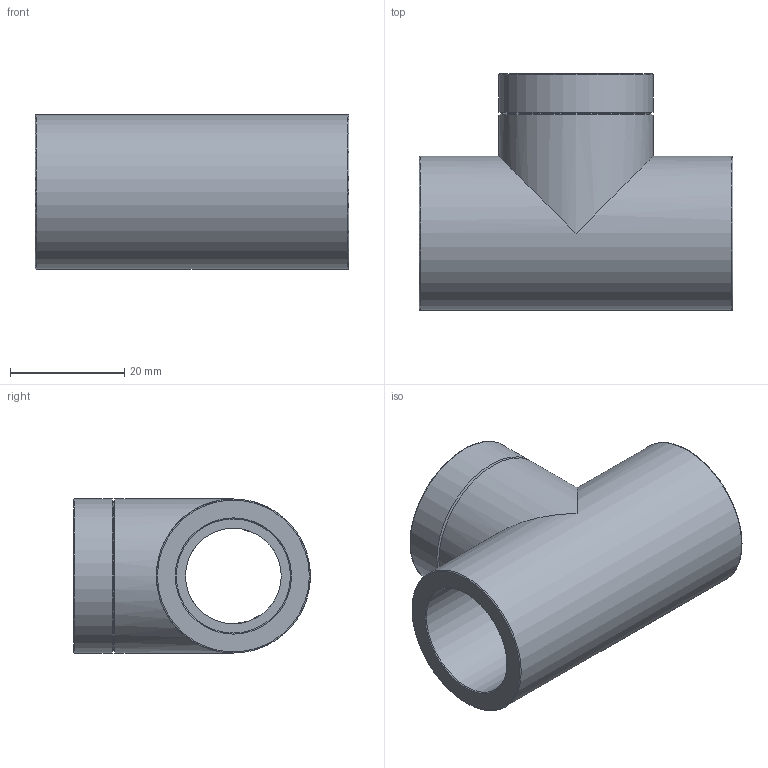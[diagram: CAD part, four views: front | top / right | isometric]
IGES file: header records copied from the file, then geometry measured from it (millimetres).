
Global section: file name: 050402020005.ipt; native system: Autodesk Inventor 2015; preprocessor: unknown; author: KIM; date: 20171207.165844; units: millimetre
Bounding box: 55 x 41.5 x 27 mm (x, y, z)
Volume: 20323.6 mm3; surface area: 10892.1 mm2
Topology: 1 solids, 1 shells, 21 faces, 61 edges, 45 vertices
Faces by surface type: revolution 10, plane 6, cylinder 3, cone 2
Full cylindrical faces by diameter (mm): 27 x3
